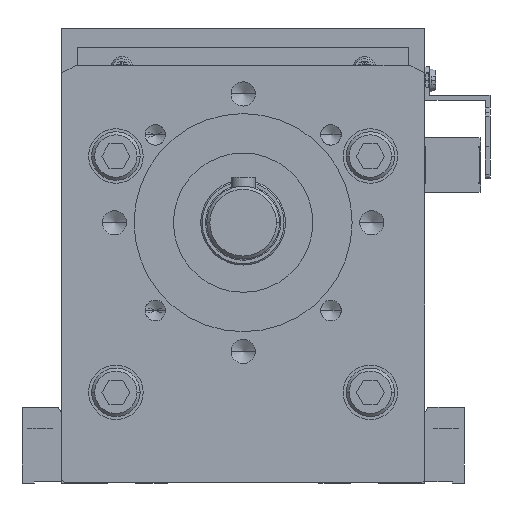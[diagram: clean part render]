
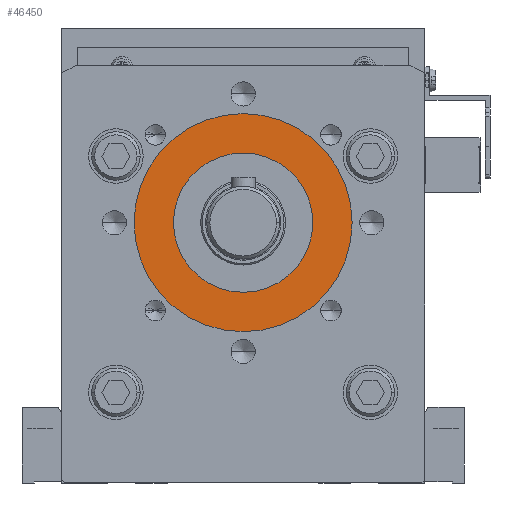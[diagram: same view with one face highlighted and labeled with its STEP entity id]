
A CAD part, front view. The second image highlights one B-rep face of the part: STEP entity #46450.
In plain terms, the highlighted planar face has unit normal (0, -1, 0).
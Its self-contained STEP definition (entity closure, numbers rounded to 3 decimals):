
#45970=CARTESIAN_POINT('',(1013.,301.3,660.7));
#45980=VERTEX_POINT('',#45970);
#46060=CARTESIAN_POINT('',(941.,301.3,660.7));
#46070=VERTEX_POINT('',#46060);
#46100=CARTESIAN_POINT('',(977.,301.3,660.7));
#46110=DIRECTION('',(-0.,1.,0.));
#46120=DIRECTION('',(1.,0.,0.));
#46130=AXIS2_PLACEMENT_3D('',#46100,#46110,#46120);
#46140=CIRCLE('',#46130,36.);
#46150=EDGE_CURVE('',#45980,#46070,#46140,.T.);
#46200=CARTESIAN_POINT('',(975.566,301.3,694.901));
#46210=DIRECTION('',(0.,-1.,0.));
#46220=DIRECTION('',(1.,0.,0.));
#46230=AXIS2_PLACEMENT_3D('',#46200,#46210,#46220);
#46240=PLANE('',#46230);
#46250=EDGE_CURVE('',#46070,#45980,#46140,.T.);
#46260=ORIENTED_EDGE('',*,*,#46250,.F.);
#46270=ORIENTED_EDGE('',*,*,#46150,.F.);
#46280=EDGE_LOOP('',(#46270,#46260));
#46290=FACE_OUTER_BOUND('',#46280,.T.);
#46300=CARTESIAN_POINT('',(977.,301.3,660.7));
#46310=DIRECTION('',(-0.,1.,0.));
#46320=DIRECTION('',(1.,0.,0.));
#46330=AXIS2_PLACEMENT_3D('',#46300,#46310,#46320);
#46340=CIRCLE('',#46330,23.);
#46350=CARTESIAN_POINT('',(954.,301.3,660.7));
#46360=VERTEX_POINT('',#46350);
#46370=CARTESIAN_POINT('',(1000.,301.3,660.7));
#46380=VERTEX_POINT('',#46370);
#46390=EDGE_CURVE('',#46360,#46380,#46340,.T.);
#46400=ORIENTED_EDGE('',*,*,#46390,.T.);
#46410=EDGE_CURVE('',#46380,#46360,#46340,.T.);
#46420=ORIENTED_EDGE('',*,*,#46410,.T.);
#46430=EDGE_LOOP('',(#46420,#46400));
#46440=FACE_BOUND('',#46430,.T.);
#46450=ADVANCED_FACE('',(#46290,#46440),#46240,.T.);
